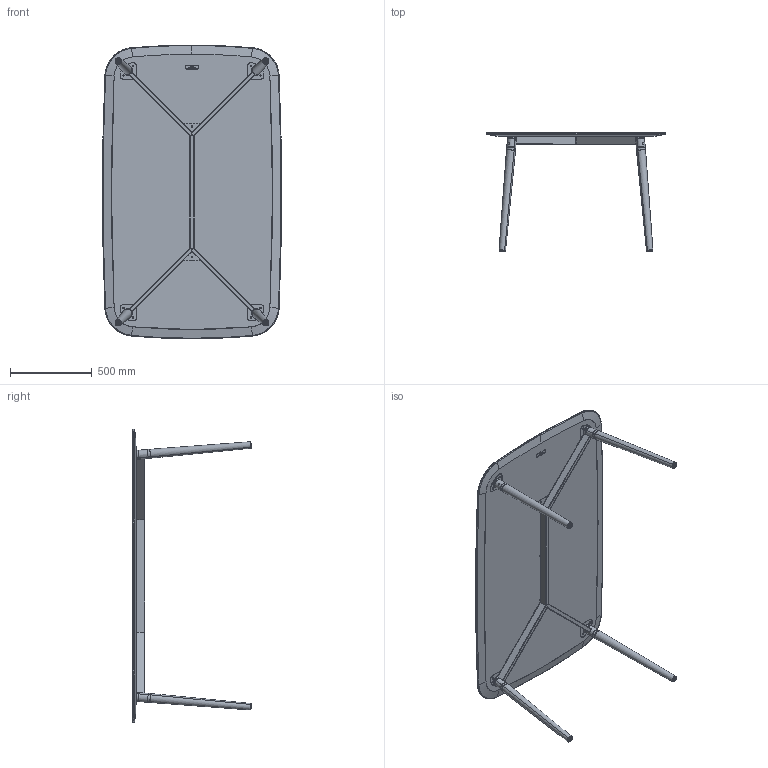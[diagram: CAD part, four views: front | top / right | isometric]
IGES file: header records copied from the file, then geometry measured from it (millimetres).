
Start section: SolidWorks IGES file using analytic representation for surfaces
Global section: file name: C:\SANTACOLE_PDM\Proyectos Catálogo\PROD-P13-053 -- MESA BELLOCH\6_Técnico comercial\3d WEB\Mesa Belloch rectangular.IGS; native system: SolidWorks 2019; preprocessor: SolidWorks 2019; author: louis.ferraz; date: 200408.131114; units: millimetre
Bounding box: 1096.4 x 726.43 x 1798.36 mm (x, y, z)
Surface area: 5333956.7 mm2 (no closed solid volume)
Topology: 0 solids, 0 shells, 1442 faces, 23872 edges, 23828 vertices
Faces by surface type: bspline 803, revolution 639
